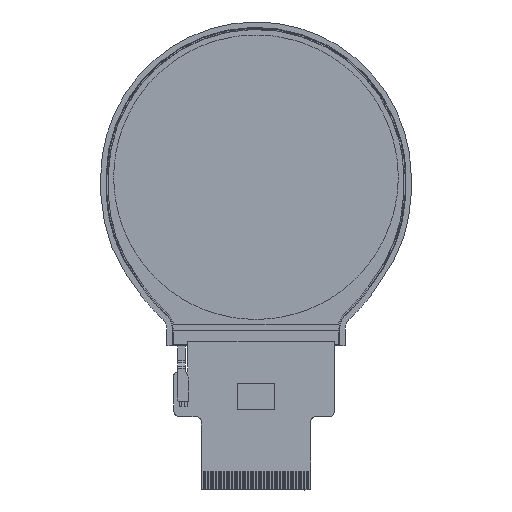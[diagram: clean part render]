
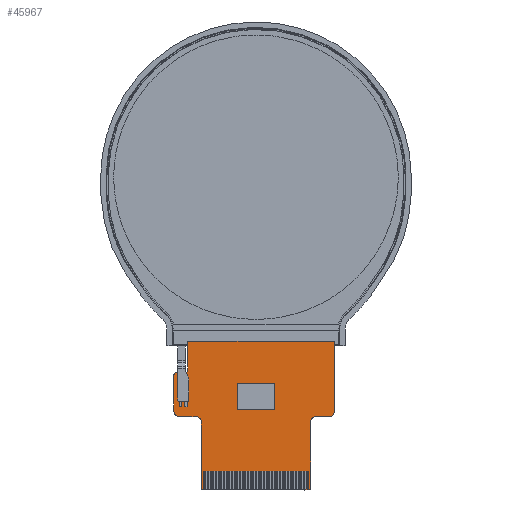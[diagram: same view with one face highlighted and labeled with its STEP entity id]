
A CAD part, top view. The second image highlights one B-rep face of the part: STEP entity #45967.
In plain terms, the highlighted planar face has unit normal (0, 0, 1).
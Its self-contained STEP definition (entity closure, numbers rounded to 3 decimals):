
#459 = CARTESIAN_POINT ( 'NONE',  ( 6763.961, 354.799, -0.385 ) ) ;
#922 = CARTESIAN_POINT ( 'NONE',  ( 6764.044, 342.039, -0.385 ) ) ;
#1149 = CARTESIAN_POINT ( 'NONE',  ( 6761.431, 364.251, -0.385 ) ) ;
#2156 = EDGE_CURVE ( 'NONE', #32124, #19294, #32635, .T. ) ;
#2632 = DIRECTION ( 'NONE',  ( -1., 0., 0. ) ) ;
#3465 = CARTESIAN_POINT ( 'NONE',  ( 6788.902, 369.94, -0.385 ) ) ;
#4007 = CARTESIAN_POINT ( 'NONE',  ( 6758.83, 359.047, -0.385 ) ) ;
#4234 = CARTESIAN_POINT ( 'NONE',  ( 6761.431, 364.544, -0.385 ) ) ;
#4469 = CARTESIAN_POINT ( 'NONE',  ( 6763.547, 355.799, -0.385 ) ) ;
#4696 = CARTESIAN_POINT ( 'NONE',  ( 6759.33, 364.044, -0.385 ) ) ;
#4930 = CARTESIAN_POINT ( 'NONE',  ( 6761.431, 366.343, -0.385 ) ) ;
#6335 = VERTEX_POINT ( 'NONE', #3465 ) ;
#6506 = CARTESIAN_POINT ( 'NONE',  ( 6784.378, 342.039, -0.385 ) ) ;
#8010 = CARTESIAN_POINT ( 'NONE',  ( 6760.397, 364.044, -0.385 ) ) ;
#8237 = CARTESIAN_POINT ( 'NONE',  ( 6763.961, 355.385, -0.385 ) ) ;
#8467 = CARTESIAN_POINT ( 'NONE',  ( 6758.83, 363.837, -0.385 ) ) ;
#9569 = CARTESIAN_POINT ( 'NONE',  ( 6784.461, 355.385, -0.385 ) ) ;
#10051 = CARTESIAN_POINT ( 'NONE',  ( 6786.275, 355.799, -0.385 ) ) ;
#10146 = DIRECTION ( 'NONE',  ( 1., 0., 0. ) ) ;
#10285 = CARTESIAN_POINT ( 'NONE',  ( 6784.461, 354.799, -0.385 ) ) ;
#11541 = CARTESIAN_POINT ( 'NONE',  ( 6761.917, 355.799, -0.385 ) ) ;
#13573 = CARTESIAN_POINT ( 'NONE',  ( 6787.088, 355.799, -0.385 ) ) ;
#15339 = AXIS2_PLACEMENT_3D ( 'NONE', #21268, #25030, #10146 ) ;
#15563 = CARTESIAN_POINT ( 'NONE',  ( 6758.83, 363.544, -0.385 ) ) ;
#17147 = CARTESIAN_POINT ( 'NONE',  ( 6784.261, 342.039, -0.385 ) ) ;
#18669 = CARTESIAN_POINT ( 'NONE',  ( 6758.83, 361.296, -0.385 ) ) ;
#18895 = CARTESIAN_POINT ( 'NONE',  ( 6759.83, 355.799, -0.385 ) ) ;
#19159 = ORIENTED_EDGE ( 'NONE', *, *, #2156, .T. ) ;
#19294 = VERTEX_POINT ( 'NONE', #41861 ) ;
#19353 = CARTESIAN_POINT ( 'NONE',  ( 6764.161, 342.039, -0.385 ) ) ;
#19571 = EDGE_CURVE ( 'NONE', #6335, #32124, #38566, .T. ) ;
#20932 = CARTESIAN_POINT ( 'NONE',  ( 6784.461, 350.612, -0.385 ) ) ;
#21268 = CARTESIAN_POINT ( 'NONE',  ( 6763.961, 353.262, -0.385 ) ) ;
#22341 = VECTOR ( 'NONE', #2632, 1000. ) ;
#22652 = CARTESIAN_POINT ( 'NONE',  ( 6763.961, 346.426, -0.385 ) ) ;
#23165 = CARTESIAN_POINT ( 'NONE',  ( 6761.431, 369.94, -0.385 ) ) ;
#23996 = CARTESIAN_POINT ( 'NONE',  ( 6788.488, 355.799, -0.385 ) ) ;
#24353 = EDGE_CURVE ( 'NONE', #19294, #6335, #44288, .T. ) ;
#25030 = DIRECTION ( 'NONE',  ( 0., 0., 1. ) ) ;
#25307 = ORIENTED_EDGE ( 'NONE', *, *, #24353, .T. ) ;
#25377 = VECTOR ( 'NONE', #34347, 1000. ) ;
#26188 = CARTESIAN_POINT ( 'NONE',  ( 6763.961, 342.122, -0.385 ) ) ;
#26307 = CARTESIAN_POINT ( 'NONE',  ( 6788.902, 353.262, -0.385 ) ) ;
#26419 = CARTESIAN_POINT ( 'NONE',  ( 6763.961, 350.612, -0.385 ) ) ;
#26882 = ORIENTED_EDGE ( 'NONE', *, *, #19571, .T. ) ;
#27519 = CARTESIAN_POINT ( 'NONE',  ( 6784.876, 355.799, -0.385 ) ) ;
#29732 = CARTESIAN_POINT ( 'NONE',  ( 6760.931, 364.044, -0.385 ) ) ;
#29968 = CARTESIAN_POINT ( 'NONE',  ( 6760.874, 355.799, -0.385 ) ) ;
#30841 = CARTESIAN_POINT ( 'NONE',  ( 6777.561, 342.039, -0.385 ) ) ;
#31554 = CARTESIAN_POINT ( 'NONE',  ( 6787.902, 355.799, -0.385 ) ) ;
#32124 = VERTEX_POINT ( 'NONE', #23165 ) ;
#32635 =( BOUNDED_CURVE ( )  B_SPLINE_CURVE ( 3, ( #36623, #33528, #4930, #4234, #1149, #37086, #29732, #8010, #45273, #4696, #40860, #8467, #15563, #18669, #4007, #36857, #33065, #43944, #18895, #29968, #11541, #32831, #4469, #8237, #459, #26419, #22652, #33296, #26188, #922, #19353, #33764, #30841, #17147, #6506, #38665, #34640, #41963, #20932, #10285, #9569, #27519, #34874, #10051, #13573, #31554, #23996, #42674, #45741 ),
 .UNSPECIFIED., .F., .F. ) 
 B_SPLINE_CURVE_WITH_KNOTS ( ( 4, 3, 3, 3, 3, 3, 3, 3, 3, 3, 3, 3, 3, 3, 3, 3, 4 ),
 ( 0., 0.166, 0.188, 0.227, 0.245, 0.379, 0.407, 0.458, 0.48, 0.642, 0.646, 0.854, 0.857, 0.962, 0.974, 0.99, 1. ),
 .UNSPECIFIED. ) 
 CURVE ( )  GEOMETRIC_REPRESENTATION_ITEM ( )  RATIONAL_B_SPLINE_CURVE ( ( 1., 1., 1., 1., 0.805, 0.805, 1., 1., 1., 1., 0.805, 0.805, 1., 1., 1., 1., 0.805, 0.805, 1., 1., 1., 1., 0.805, 0.805, 1., 1., 1., 1., 0.805, 0.805, 1., 1., 1., 1., 0.805, 0.805, 1., 1., 1., 1., 0.805, 0.805, 1., 1., 1., 1., 0.805, 0.805, 1. ) ) 
 REPRESENTATION_ITEM ( '' )  );
#32831 = CARTESIAN_POINT ( 'NONE',  ( 6762.961, 355.799, -0.385 ) ) ;
#33065 = CARTESIAN_POINT ( 'NONE',  ( 6758.83, 356.213, -0.385 ) ) ;
#33296 = CARTESIAN_POINT ( 'NONE',  ( 6763.961, 342.239, -0.385 ) ) ;
#33528 = CARTESIAN_POINT ( 'NONE',  ( 6761.431, 368.142, -0.385 ) ) ;
#33764 = CARTESIAN_POINT ( 'NONE',  ( 6770.861, 342.039, -0.385 ) ) ;
#34347 = DIRECTION ( 'NONE',  ( 0., 1., 0. ) ) ;
#34539 = CARTESIAN_POINT ( 'NONE',  ( 6763.961, 369.94, -0.385 ) ) ;
#34640 = CARTESIAN_POINT ( 'NONE',  ( 6784.461, 342.239, -0.385 ) ) ;
#34789 = EDGE_LOOP ( 'NONE', ( #25307, #26882, #19159 ) ) ;
#34874 = CARTESIAN_POINT ( 'NONE',  ( 6785.461, 355.799, -0.385 ) ) ;
#36623 = CARTESIAN_POINT ( 'NONE',  ( 6761.431, 369.94, -0.385 ) ) ;
#36857 = CARTESIAN_POINT ( 'NONE',  ( 6758.83, 356.799, -0.385 ) ) ;
#37086 = CARTESIAN_POINT ( 'NONE',  ( 6761.224, 364.044, -0.385 ) ) ;
#38566 = LINE ( 'NONE', #34539, #22341 ) ;
#38665 = CARTESIAN_POINT ( 'NONE',  ( 6784.461, 342.122, -0.385 ) ) ;
#38999 = PLANE ( 'NONE',  #15339 ) ;
#40860 = CARTESIAN_POINT ( 'NONE',  ( 6759.037, 364.044, -0.385 ) ) ;
#41861 = CARTESIAN_POINT ( 'NONE',  ( 6788.902, 356.799, -0.385 ) ) ;
#41963 = CARTESIAN_POINT ( 'NONE',  ( 6784.461, 346.426, -0.385 ) ) ;
#42539 = FACE_OUTER_BOUND ( 'NONE', #34789, .T. ) ;
#42674 = CARTESIAN_POINT ( 'NONE',  ( 6788.902, 356.213, -0.385 ) ) ;
#43944 = CARTESIAN_POINT ( 'NONE',  ( 6759.244, 355.799, -0.385 ) ) ;
#44288 = LINE ( 'NONE', #26307, #25377 ) ;
#45273 = CARTESIAN_POINT ( 'NONE',  ( 6759.864, 364.044, -0.385 ) ) ;
#45741 = CARTESIAN_POINT ( 'NONE',  ( 6788.902, 356.799, -0.385 ) ) ;
#45967 = ADVANCED_FACE ( 'NONE', ( #42539 ), #38999, .T. ) ;
